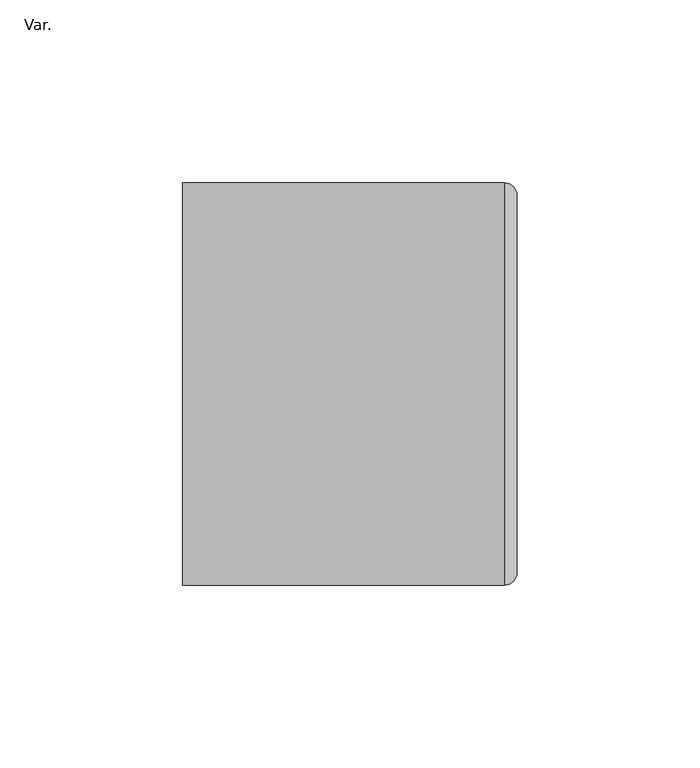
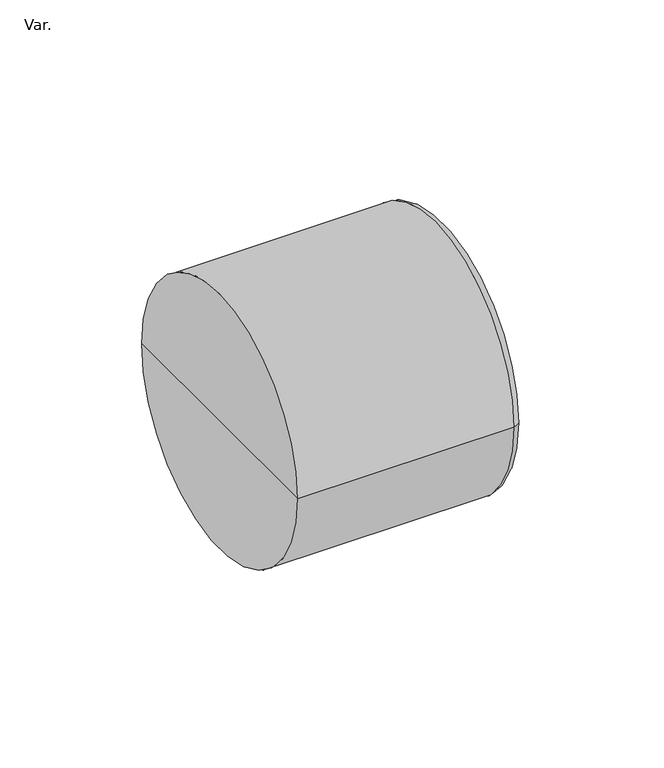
"""IFC4 building model written with IfcOpenShell, lengths in millimetres: pipe fitting geometry, PIF_HDPE screw cap_Akatherm : Var.."""

from ifc_helpers import new_model, si_unit, point, frame, origin, place, context, project, spatial, circle_curve, ellipse_curve, trimmed, source, transform, mapped, element, save
from ifc_brep_helpers import plane_surface, cylinder_surface, revolved_surface, advanced_brep


def var_078c649d(model_context):
    return source(origin(), model_context, "Body", "AdvancedBrep", [
        advanced_brep(
        [(-3.7, -55.0, 0.0), (-3.7, 55.0, 0.0), (84.3, 55.0, 0.0), (84.3, -55.0, 0.0), (-3.7, 0.0, 0.0), (87.8, -51.5, 0.0), (87.8, 51.5, 0.0), (87.8, 0.0, 0.0)],
        [
            (0, 1, circle_curve(frame((-3.7, 0.0, 0.0), z_axis=(1.0, 0.0, 0.0), x_axis=(0.0, 1.0, 0.0)), 55.0)),
            (1, 2),
            (2, 3, circle_curve(frame((84.3, 0.0, 0.0), z_axis=(-1.0, 0.0, 0.0), x_axis=(0.0, 1.0, 0.0)), 55.0)),
            (3, 0),
            (1, 0, circle_curve(frame((-3.7, 0.0, 0.0), z_axis=(1.0, 0.0, 0.0), x_axis=(0.0, 1.0, 0.0)), 55.0)),
            (3, 2, circle_curve(frame((84.3, 0.0, 0.0), z_axis=(-1.0, 0.0, 0.0), x_axis=(0.0, 1.0, 0.0)), 55.0)),
            (4, 1),
            (0, 4),
            (5, 6, circle_curve(frame((87.8, 0.0, 0.0), z_axis=(1.0, 0.0, 0.0), x_axis=(0.0, 1.0, 0.0)), 51.5)),
            (6, 7),
            (7, 5),
            (6, 5, circle_curve(frame((87.8, 0.0, 0.0), z_axis=(1.0, 0.0, 0.0), x_axis=(0.0, 1.0, 0.0)), 51.5)),
            (2, 6, circle_curve(frame((84.3, 51.5, 0.0), z_axis=(0.0, 0.0, -1.0), x_axis=(1.0, 0.0, 0.0)), 3.5)),
            (5, 3, circle_curve(frame((84.3, -51.5, 0.0), z_axis=(0.0, 0.0, -1.0), x_axis=(1.0, 0.0, 0.0)), 3.5)),
        ],
        [
            cylinder_surface(frame((-70.0, 0.0, 0.0), z_axis=(-1.0, 0.0, 0.0), x_axis=(0.0, 1.0, 0.0)), 55.0),
            plane_surface(frame((-3.7, 0.0, 0.0), z_axis=(-1.0, 0.0, 0.0), x_axis=(0.0, 1.0, 0.0))),
            plane_surface(frame((87.8, 0.0, 0.0), z_axis=(1.0, 0.0, 0.0), x_axis=(0.0, 1.0, 0.0))),
            revolved_surface(trimmed(ellipse_curve(frame((84.3, 51.5, 0.0), z_axis=(0.0, 0.0, 1.0), x_axis=(1.0, 0.0, 0.0)), 3.5, 3.5), [point((87.8, 51.5, 0.0))], [point((84.3, 55.0, 0.0))], True, "CARTESIAN"), (-70.0, 0.0, 0.0), (-1.0, 0.0, 0.0)),
        ],
        [
            (0, [[1, 2, 3, 4]]),
            (0, [[5, -4, 6, -2]]),
            (1, [[7, -1, 8]]),
            (1, [[-8, -5, -7]]),
            (2, [[9, 10, 11]]),
            (2, [[12, -11, -10]]),
            (3, [[-3, 13, -9, 14]]),
            (3, [[-6, -14, -12, -13]]),
        ],
    ),
    ])


if __name__ == "__main__":
    model = new_model("IFC4")
    model_context = context("Model", 3, world=origin())
    ifc_project = project(units=[si_unit("LENGTHUNIT", "METRE", prefix="MILLI")], contexts=[model_context])
    site = spatial("IfcSite", under=ifc_project)
    building = spatial("IfcBuilding", under=site)
    placement = place(None, origin())
    var_shape = var_078c649d(model_context)
    element("IfcPipeFitting", 1, ObjectType="PIF_HDPE screw cap_Akatherm : Var.", at=placement, inside=building, context=model_context, shape_type="MappedRepresentation", body=[
        mapped(var_shape, transform((0.0, 0.0, 0.0), x_axis=(1.0, 0.0, 0.0), y_axis=(0.0, 1.0, 0.0), z_axis=(0.0, 0.0, 1.0))),
    ])
    save(model, "model.ifc")
